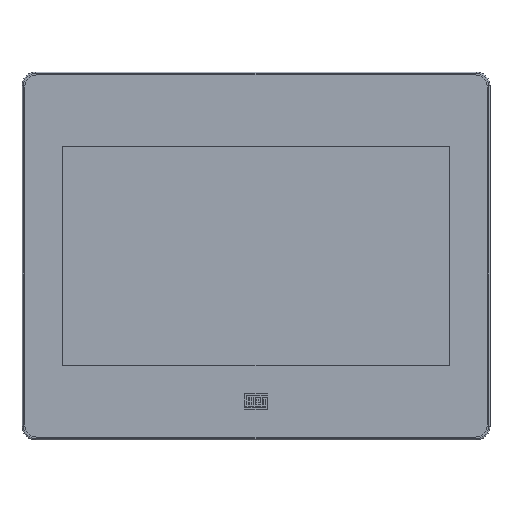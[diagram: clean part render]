
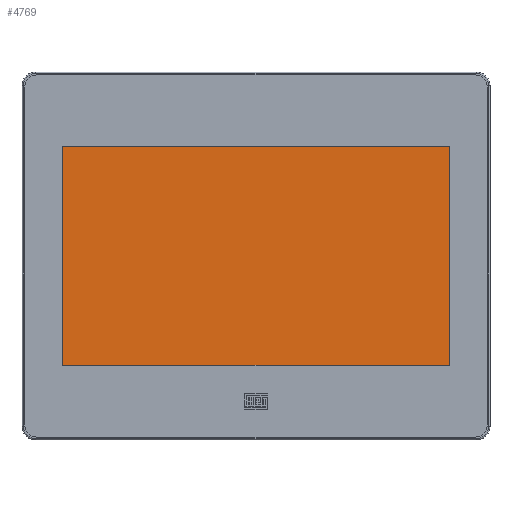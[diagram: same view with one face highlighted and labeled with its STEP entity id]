
A CAD part, top view. The second image highlights one B-rep face of the part: STEP entity #4769.
In plain terms, the highlighted planar face has unit normal (0, 0, 1).
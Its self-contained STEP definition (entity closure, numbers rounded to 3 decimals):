
#91 = ORIENTED_EDGE ( 'NONE', *, *, #1643, .T. ) ;
#106 = VECTOR ( 'NONE', #2855, 1000. ) ;
#275 = CARTESIAN_POINT ( 'NONE',  ( -111.865, -63.135, 37.59 ) ) ;
#478 = CARTESIAN_POINT ( 'NONE',  ( 111.865, -63.135, 37.59 ) ) ;
#656 = CARTESIAN_POINT ( 'NONE',  ( -111.865, 63.135, 37.59 ) ) ;
#676 = AXIS2_PLACEMENT_3D ( 'NONE', #3329, #3018, #1872 ) ;
#703 = CARTESIAN_POINT ( 'NONE',  ( 111.865, 63.135, 37.59 ) ) ;
#707 = EDGE_LOOP ( 'NONE', ( #4236, #4102, #996, #91 ) ) ;
#713 = VERTEX_POINT ( 'NONE', #656 ) ;
#786 = DIRECTION ( 'NONE',  ( 0., -1., 0. ) ) ;
#852 = CARTESIAN_POINT ( 'NONE',  ( 111.865, -63.135, 37.59 ) ) ;
#996 = ORIENTED_EDGE ( 'NONE', *, *, #3965, .T. ) ;
#1277 = VERTEX_POINT ( 'NONE', #3940 ) ;
#1643 = EDGE_CURVE ( 'NONE', #2971, #713, #1849, .T. ) ;
#1700 = CARTESIAN_POINT ( 'NONE',  ( 111.865, 63.135, 37.59 ) ) ;
#1849 = LINE ( 'NONE', #1700, #106 ) ;
#1872 = DIRECTION ( 'NONE',  ( 1., 0., 0. ) ) ;
#2188 = FACE_OUTER_BOUND ( 'NONE', #707, .T. ) ;
#2524 = LINE ( 'NONE', #478, #4715 ) ;
#2533 = VECTOR ( 'NONE', #786, 1000. ) ;
#2637 = PLANE ( 'NONE',  #676 ) ;
#2855 = DIRECTION ( 'NONE',  ( -1., 0., 0. ) ) ;
#2971 = VERTEX_POINT ( 'NONE', #703 ) ;
#3018 = DIRECTION ( 'NONE',  ( 0., 0., 1. ) ) ;
#3200 = DIRECTION ( 'NONE',  ( 1., 0., 0. ) ) ;
#3273 = EDGE_CURVE ( 'NONE', #1277, #3800, #4032, .T. ) ;
#3329 = CARTESIAN_POINT ( 'NONE',  ( 0., 0., 37.59 ) ) ;
#3452 = DIRECTION ( 'NONE',  ( 0., 1., 0. ) ) ;
#3506 = VECTOR ( 'NONE', #3200, 1000. ) ;
#3800 = VERTEX_POINT ( 'NONE', #852 ) ;
#3940 = CARTESIAN_POINT ( 'NONE',  ( -111.865, -63.135, 37.59 ) ) ;
#3965 = EDGE_CURVE ( 'NONE', #3800, #2971, #2524, .T. ) ;
#4032 = LINE ( 'NONE', #275, #3506 ) ;
#4102 = ORIENTED_EDGE ( 'NONE', *, *, #3273, .T. ) ;
#4145 = LINE ( 'NONE', #4469, #2533 ) ;
#4236 = ORIENTED_EDGE ( 'NONE', *, *, #4789, .T. ) ;
#4469 = CARTESIAN_POINT ( 'NONE',  ( -111.865, 63.135, 37.59 ) ) ;
#4715 = VECTOR ( 'NONE', #3452, 1000. ) ;
#4769 = ADVANCED_FACE ( 'NONE', ( #2188 ), #2637, .T. ) ;
#4789 = EDGE_CURVE ( 'NONE', #713, #1277, #4145, .T. ) ;
